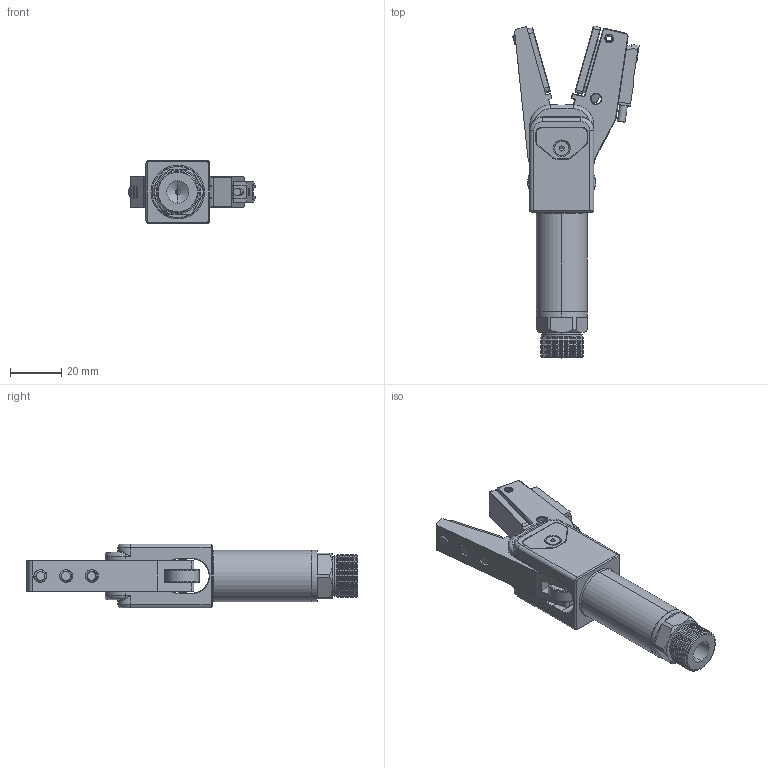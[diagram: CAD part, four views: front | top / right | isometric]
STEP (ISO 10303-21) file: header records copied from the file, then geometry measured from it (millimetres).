
FILE_DESCRIPTION(/* description */ (''),/* implementation_level */ '2;1');
FILE_NAME(/* name */ 'GRT20D-CN',/* time_stamp */ '2021-12-24T17:10:22+08:00',/* author */ (''),/* organization */ (''),/* preprocessor_version */ 'ST-DEVELOPER v9',/* originating_system */ 'UGS - NX 4.0',/* authorisation */ '');
FILE_SCHEMA (('AUTOMOTIVE_DESIGN { 1 0 10303 214 1 1 1 1 }'));
Length unit declared in the file: millimetre
Products named in the file (1): Admi6A8Clt9g
Bounding box: 49.44 x 129.92 x 25 mm (x, y, z)
Volume: 36766.9 mm3; surface area: 24864.2 mm2
Topology: 3 solids, 12 shells, 780 faces, 1844 edges, 1108 vertices
Faces by surface type: plane 271, cylinder 245, cone 208, torus 34, bspline 14, revolution 8
Entity records: 28963 total; most frequent: CARTESIAN_POINT 5941, DIRECTION 4019, ORIENTED_EDGE 3672, EDGE_CURVE 1836, AXIS2_PLACEMENT_3D 1518, VERTEX_POINT 1108, LINE 975, VECTOR 975
